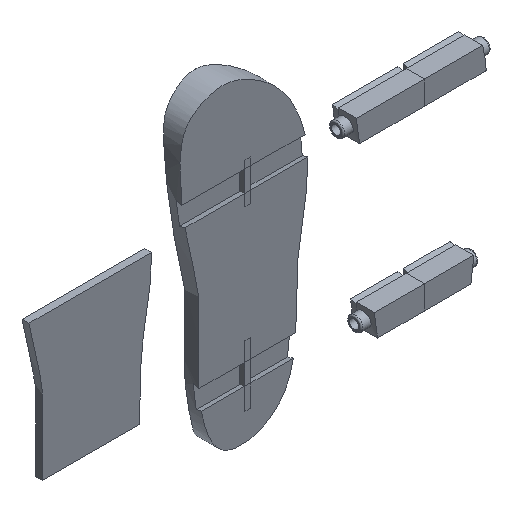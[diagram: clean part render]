
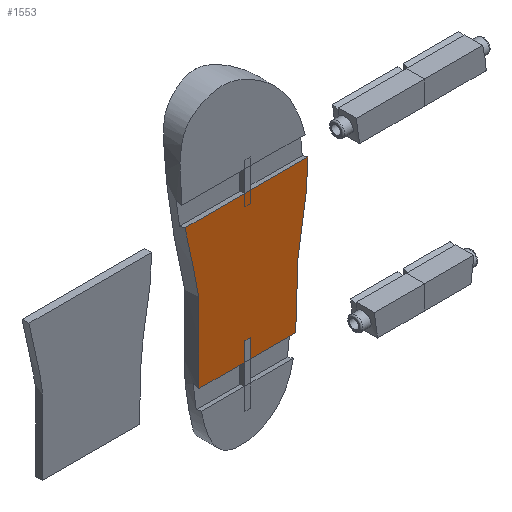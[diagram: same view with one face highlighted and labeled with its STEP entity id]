
A CAD part, isometric view. The second image highlights one B-rep face of the part: STEP entity #1553.
In plain terms, the highlighted planar face has unit normal (0, -1, 0).
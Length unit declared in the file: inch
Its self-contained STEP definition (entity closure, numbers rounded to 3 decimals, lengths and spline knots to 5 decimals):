
#156=FACE_OUTER_BOUND('',#249,.T.);
#249=EDGE_LOOP('',(#1058,#1059,#1060,#1061));
#345=LINE('',#2240,#472);
#348=LINE('',#2288,#475);
#472=VECTOR('',#1858,0.3937);
#475=VECTOR('',#1865,0.3937);
#610=B_SPLINE_CURVE_WITH_KNOTS('',5,(#2348,#2349,#2350,#2351,#2352,#2353,
#2354,#2355),.UNSPECIFIED.,.F.,.F.,(6,1,1,6),(0.71695,0.77337,
0.84947,0.88028),.UNSPECIFIED.);
#611=B_SPLINE_CURVE_WITH_KNOTS('',5,(#2356,#2357,#2358,#2359,#2360,#2361,
#2362,#2363,#2364),.UNSPECIFIED.,.F.,.F.,(6,1,1,1,6),(0.13107,
0.13946,0.21684,0.29242,0.29803),
 .UNSPECIFIED.);
#667=VERTEX_POINT('',#2233);
#669=VERTEX_POINT('',#2239);
#672=VERTEX_POINT('',#2276);
#674=VERTEX_POINT('',#2283);
#814=EDGE_CURVE('',#669,#667,#345,.T.);
#822=EDGE_CURVE('',#672,#674,#348,.T.);
#830=EDGE_CURVE('',#672,#667,#610,.T.);
#831=EDGE_CURVE('',#669,#674,#611,.T.);
#1058=ORIENTED_EDGE('',*,*,#814,.T.);
#1059=ORIENTED_EDGE('',*,*,#830,.F.);
#1060=ORIENTED_EDGE('',*,*,#822,.T.);
#1061=ORIENTED_EDGE('',*,*,#831,.F.);
#1485=PLANE('',#1737);
#1553=ADVANCED_FACE('',(#156),#1485,.F.);
#1737=AXIS2_PLACEMENT_3D('',#2347,#1874,#1875);
#1858=DIRECTION('',(1.,0.,0.));
#1865=DIRECTION('',(-1.,0.,0.));
#1874=DIRECTION('center_axis',(0.,1.,0.));
#1875=DIRECTION('ref_axis',(0.,0.,1.));
#2233=CARTESIAN_POINT('',(1.72703,0.,2.5));
#2239=CARTESIAN_POINT('',(-1.75,0.,2.5));
#2240=CARTESIAN_POINT('',(-1.18797,0.,2.5));
#2276=CARTESIAN_POINT('',(2.15896,0.,7.75));
#2283=CARTESIAN_POINT('',(-2.25,0.,7.75));
#2288=CARTESIAN_POINT('',(1.11635,0.,7.75));
#2347=CARTESIAN_POINT('Origin',(-0.068,0.,5.8767));
#2348=CARTESIAN_POINT('Ctrl Pts',(2.15896,0.,7.75));
#2349=CARTESIAN_POINT('Ctrl Pts',(2.17673,0.,7.3733));
#2350=CARTESIAN_POINT('Ctrl Pts',(2.13386,0.,6.4793));
#2351=CARTESIAN_POINT('Ctrl Pts',(1.87111,0.,5.44039));
#2352=CARTESIAN_POINT('Ctrl Pts',(1.72094,0.,4.66497));
#2353=CARTESIAN_POINT('Ctrl Pts',(1.7596,0.,3.49903));
#2354=CARTESIAN_POINT('Ctrl Pts',(1.73937,0.,2.72139));
#2355=CARTESIAN_POINT('Ctrl Pts',(1.72703,0.,2.5));
#2356=CARTESIAN_POINT('Ctrl Pts',(-1.75,0.,2.5));
#2357=CARTESIAN_POINT('Ctrl Pts',(-1.75471,0.,2.56241));
#2358=CARTESIAN_POINT('Ctrl Pts',(-1.79707,0.,3.20088));
#2359=CARTESIAN_POINT('Ctrl Pts',(-1.7686,0.,4.39897));
#2360=CARTESIAN_POINT('Ctrl Pts',(-1.60727,0.,5.34398));
#2361=CARTESIAN_POINT('Ctrl Pts',(-1.85366,0.,5.94915));
#2362=CARTESIAN_POINT('Ctrl Pts',(-2.12654,0.,7.06257));
#2363=CARTESIAN_POINT('Ctrl Pts',(-2.24214,0.,7.70528));
#2364=CARTESIAN_POINT('Ctrl Pts',(-2.25,0.,7.75));
